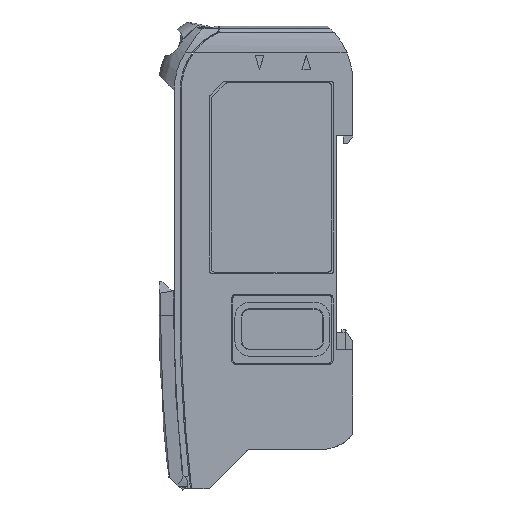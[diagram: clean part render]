
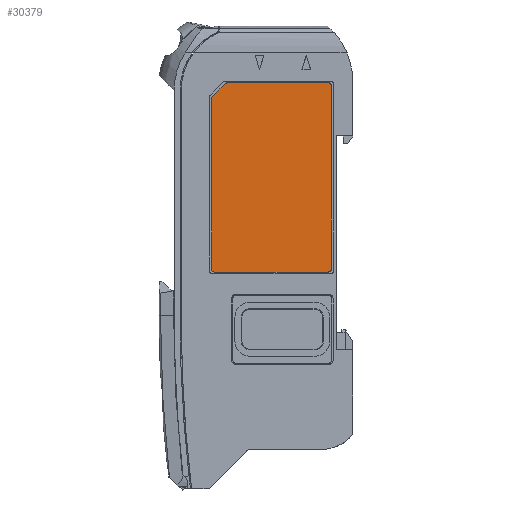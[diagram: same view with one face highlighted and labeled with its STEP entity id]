
A CAD part, left-side view. The second image highlights one B-rep face of the part: STEP entity #30379.
In plain terms, the highlighted planar face has unit normal (-1, 0, 0).
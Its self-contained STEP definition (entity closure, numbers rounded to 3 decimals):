
#462 = DIRECTION ( 'NONE',  ( 0., 0., 1. ) ) ;
#753 = CARTESIAN_POINT ( 'NONE',  ( -10.425, 21.496, -9.697 ) ) ;
#1551 = CIRCLE ( 'NONE', #11207, 0.5 ) ;
#1807 = CARTESIAN_POINT ( 'NONE',  ( -10.425, 23.703, -41.597 ) ) ;
#2752 = VERTEX_POINT ( 'NONE', #13603 ) ;
#2911 = DIRECTION ( 'NONE',  ( 0., 0., -1. ) ) ;
#3430 = CARTESIAN_POINT ( 'NONE',  ( -10.425, 21.85, -9.843 ) ) ;
#4195 = PLANE ( 'NONE',  #8530 ) ;
#5544 = DIRECTION ( 'NONE',  ( 0., 0., -1. ) ) ;
#5603 = DIRECTION ( 'NONE',  ( 1., 0., 0. ) ) ;
#5608 = DIRECTION ( 'NONE',  ( 0., 0., -1. ) ) ;
#5809 = LINE ( 'NONE', #27916, #29805 ) ;
#6593 = ORIENTED_EDGE ( 'NONE', *, *, #25965, .F. ) ;
#6846 = AXIS2_PLACEMENT_3D ( 'NONE', #9776, #15180, #2911 ) ;
#7413 = EDGE_CURVE ( 'NONE', #7534, #27452, #24170, .T. ) ;
#7421 = CARTESIAN_POINT ( 'NONE',  ( -10.425, 4.203, -10.197 ) ) ;
#7534 = VERTEX_POINT ( 'NONE', #3430 ) ;
#7688 = CIRCLE ( 'NONE', #30776, 0.5 ) ;
#7986 = EDGE_CURVE ( 'NONE', #7534, #16530, #29478, .T. ) ;
#8067 = ORIENTED_EDGE ( 'NONE', *, *, #14811, .F. ) ;
#8366 = VERTEX_POINT ( 'NONE', #8546 ) ;
#8530 = AXIS2_PLACEMENT_3D ( 'NONE', #1807, #26350, #38606 ) ;
#8546 = CARTESIAN_POINT ( 'NONE',  ( -10.425, 23.703, -42.097 ) ) ;
#8625 = LINE ( 'NONE', #20799, #21721 ) ;
#9655 = DIRECTION ( 'NONE',  ( 0., -1., 0. ) ) ;
#9776 = CARTESIAN_POINT ( 'NONE',  ( -10.425, 21.496, -10.197 ) ) ;
#9796 = CARTESIAN_POINT ( 'NONE',  ( -10.425, 3.703, -41.597 ) ) ;
#9851 = AXIS2_PLACEMENT_3D ( 'NONE', #30543, #5603, #39748 ) ;
#10688 = ORIENTED_EDGE ( 'NONE', *, *, #11712, .F. ) ;
#10818 = DIRECTION ( 'NONE',  ( 0., 0.707, -0.707 ) ) ;
#10957 = EDGE_CURVE ( 'NONE', #8366, #15885, #33629, .T. ) ;
#11207 = AXIS2_PLACEMENT_3D ( 'NONE', #7421, #22835, #37946 ) ;
#11631 = CARTESIAN_POINT ( 'NONE',  ( -10.425, 24.203, -12.197 ) ) ;
#11712 = EDGE_CURVE ( 'NONE', #13421, #16530, #24654, .T. ) ;
#12366 = ORIENTED_EDGE ( 'NONE', *, *, #15266, .T. ) ;
#13421 = VERTEX_POINT ( 'NONE', #16892 ) ;
#13603 = CARTESIAN_POINT ( 'NONE',  ( -10.425, 4.203, -9.697 ) ) ;
#14811 = EDGE_CURVE ( 'NONE', #23520, #19199, #7688, .T. ) ;
#15180 = DIRECTION ( 'NONE',  ( 1., 0., 0. ) ) ;
#15202 = LINE ( 'NONE', #9796, #19558 ) ;
#15266 = EDGE_CURVE ( 'NONE', #2752, #27452, #32523, .T. ) ;
#15292 = CARTESIAN_POINT ( 'NONE',  ( -10.425, 3.703, -10.197 ) ) ;
#15363 = EDGE_CURVE ( 'NONE', #13421, #15885, #8625, .T. ) ;
#15885 = VERTEX_POINT ( 'NONE', #37961 ) ;
#16289 = AXIS2_PLACEMENT_3D ( 'NONE', #20859, #33181, #5608 ) ;
#16530 = VERTEX_POINT ( 'NONE', #21865 ) ;
#16892 = CARTESIAN_POINT ( 'NONE',  ( -10.425, 24.203, -12.404 ) ) ;
#17068 = EDGE_LOOP ( 'NONE', ( #27694, #25980, #37811, #8067, #19361, #6593, #12366, #32614, #32767, #10688 ) ) ;
#17353 = EDGE_CURVE ( 'NONE', #8366, #19199, #5809, .T. ) ;
#19199 = VERTEX_POINT ( 'NONE', #35186 ) ;
#19361 = ORIENTED_EDGE ( 'NONE', *, *, #38582, .T. ) ;
#19558 = VECTOR ( 'NONE', #462, 1000. ) ;
#20799 = CARTESIAN_POINT ( 'NONE',  ( -10.425, 24.203, -41.597 ) ) ;
#20859 = CARTESIAN_POINT ( 'NONE',  ( -10.425, 23.703, -12.404 ) ) ;
#21572 = DIRECTION ( 'NONE',  ( 0., 0., -1. ) ) ;
#21721 = VECTOR ( 'NONE', #5544, 1000. ) ;
#21865 = CARTESIAN_POINT ( 'NONE',  ( -10.425, 24.057, -12.05 ) ) ;
#22164 = DIRECTION ( 'NONE',  ( 1., 0., 0. ) ) ;
#22835 = DIRECTION ( 'NONE',  ( 1., 0., 0. ) ) ;
#22888 = FACE_OUTER_BOUND ( 'NONE', #17068, .T. ) ;
#23520 = VERTEX_POINT ( 'NONE', #39717 ) ;
#24170 = CIRCLE ( 'NONE', #6846, 0.5 ) ;
#24654 = CIRCLE ( 'NONE', #16289, 0.5 ) ;
#25965 = EDGE_CURVE ( 'NONE', #2752, #28471, #1551, .T. ) ;
#25980 = ORIENTED_EDGE ( 'NONE', *, *, #10957, .F. ) ;
#26054 = CARTESIAN_POINT ( 'NONE',  ( -10.425, 4.203, -9.697 ) ) ;
#26350 = DIRECTION ( 'NONE',  ( -1., 0., 0. ) ) ;
#27452 = VERTEX_POINT ( 'NONE', #753 ) ;
#27694 = ORIENTED_EDGE ( 'NONE', *, *, #15363, .T. ) ;
#27916 = CARTESIAN_POINT ( 'NONE',  ( -10.425, 4.203, -42.097 ) ) ;
#28471 = VERTEX_POINT ( 'NONE', #15292 ) ;
#28867 = DIRECTION ( 'NONE',  ( 0., 1., 0. ) ) ;
#29478 = LINE ( 'NONE', #11631, #37719 ) ;
#29805 = VECTOR ( 'NONE', #9655, 1000. ) ;
#30379 = ADVANCED_FACE ( 'NONE', ( #22888 ), #4195, .T. ) ;
#30543 = CARTESIAN_POINT ( 'NONE',  ( -10.425, 23.703, -41.597 ) ) ;
#30776 = AXIS2_PLACEMENT_3D ( 'NONE', #37085, #22164, #21572 ) ;
#32523 = LINE ( 'NONE', #26054, #36550 ) ;
#32614 = ORIENTED_EDGE ( 'NONE', *, *, #7413, .F. ) ;
#32767 = ORIENTED_EDGE ( 'NONE', *, *, #7986, .T. ) ;
#33181 = DIRECTION ( 'NONE',  ( 1., 0., 0. ) ) ;
#33629 = CIRCLE ( 'NONE', #9851, 0.5 ) ;
#35186 = CARTESIAN_POINT ( 'NONE',  ( -10.425, 4.203, -42.097 ) ) ;
#36550 = VECTOR ( 'NONE', #28867, 1000. ) ;
#37085 = CARTESIAN_POINT ( 'NONE',  ( -10.425, 4.203, -41.597 ) ) ;
#37719 = VECTOR ( 'NONE', #10818, 1000. ) ;
#37811 = ORIENTED_EDGE ( 'NONE', *, *, #17353, .T. ) ;
#37946 = DIRECTION ( 'NONE',  ( 0., 0., -1. ) ) ;
#37961 = CARTESIAN_POINT ( 'NONE',  ( -10.425, 24.203, -41.597 ) ) ;
#38582 = EDGE_CURVE ( 'NONE', #23520, #28471, #15202, .T. ) ;
#38606 = DIRECTION ( 'NONE',  ( 0., 0., 1. ) ) ;
#39717 = CARTESIAN_POINT ( 'NONE',  ( -10.425, 3.703, -41.597 ) ) ;
#39748 = DIRECTION ( 'NONE',  ( 0., 0., -1. ) ) ;
